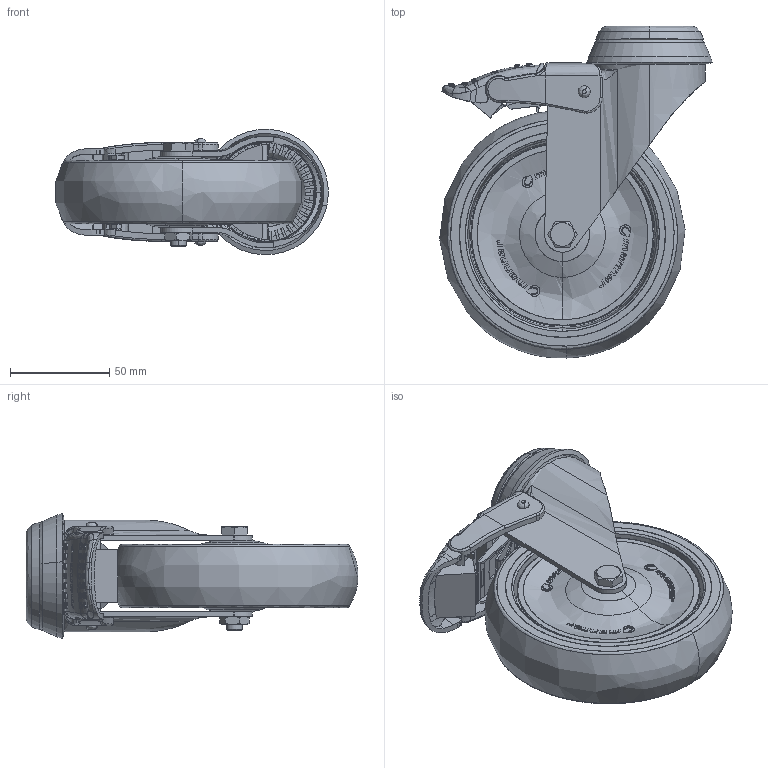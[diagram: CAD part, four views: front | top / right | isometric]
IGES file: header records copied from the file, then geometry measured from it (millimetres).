
Start section: SolidWorks IGES file using analytic representation for surfaces
Global section: file name: S:\Tyokansio\VL\14.2.2012\301587_IGES.IGS; native system: SolidWorks 2011; preprocessor: SolidWorks 2011; author: VilleLa; date: 120228.110020; units: millimetre
Bounding box: 137.59 x 167.58 x 63.32 mm (x, y, z)
Surface area: 126635.8 mm2 (no closed solid volume)
Topology: 0 solids, 0 shells, 1095 faces, 16310 edges, 16295 vertices
Faces by surface type: bspline 835, revolution 260
